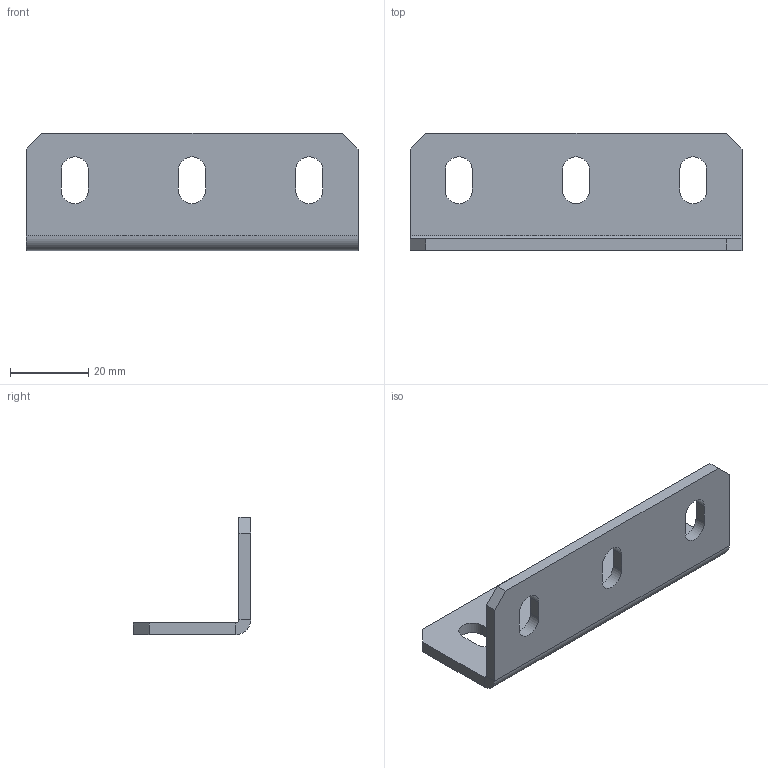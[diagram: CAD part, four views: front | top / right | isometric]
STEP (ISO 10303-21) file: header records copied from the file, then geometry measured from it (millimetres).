
FILE_DESCRIPTION (( 'STEP AP203' ), '1' );
FILE_NAME ('DSB3085-6.STEP', '2020-03-10T07:43:18', ( '' ), ( '' ), 'SwSTEP 2.0', 'SolidWorks 2017', '' );
FILE_SCHEMA (( 'CONFIG_CONTROL_DESIGN' ));
Length unit declared in the file: millimetre
Products named in the file (1): DSB3085-6
Bounding box: 85 x 30 x 30 mm (x, y, z)
Volume: 12871.5 mm3; surface area: 9975 mm2
Topology: 1 solids, 1 shells, 45 faces, 121 edges, 78 vertices
Faces by surface type: plane 28, cylinder 17
Entity records: 1506 total; most frequent: DIRECTION 247, CARTESIAN_POINT 245, ORIENTED_EDGE 242, EDGE_CURVE 121, VECTOR 87, LINE 87, AXIS2_PLACEMENT_3D 80, VERTEX_POINT 78
